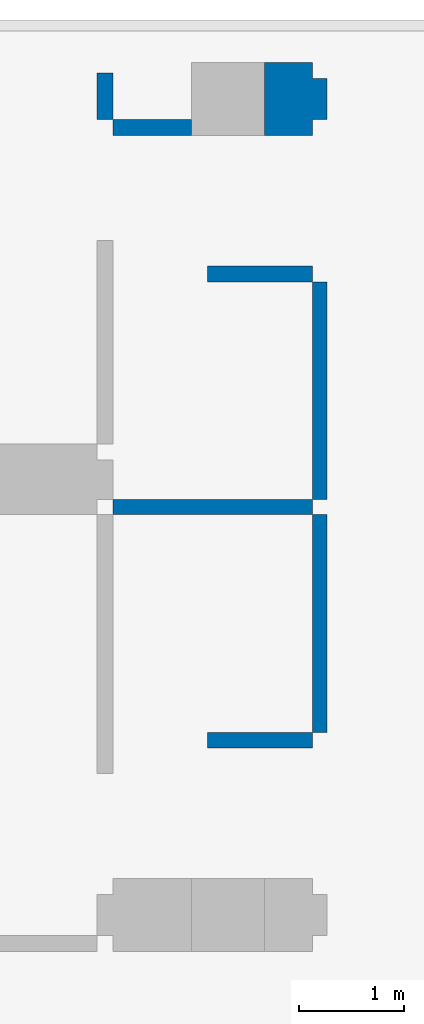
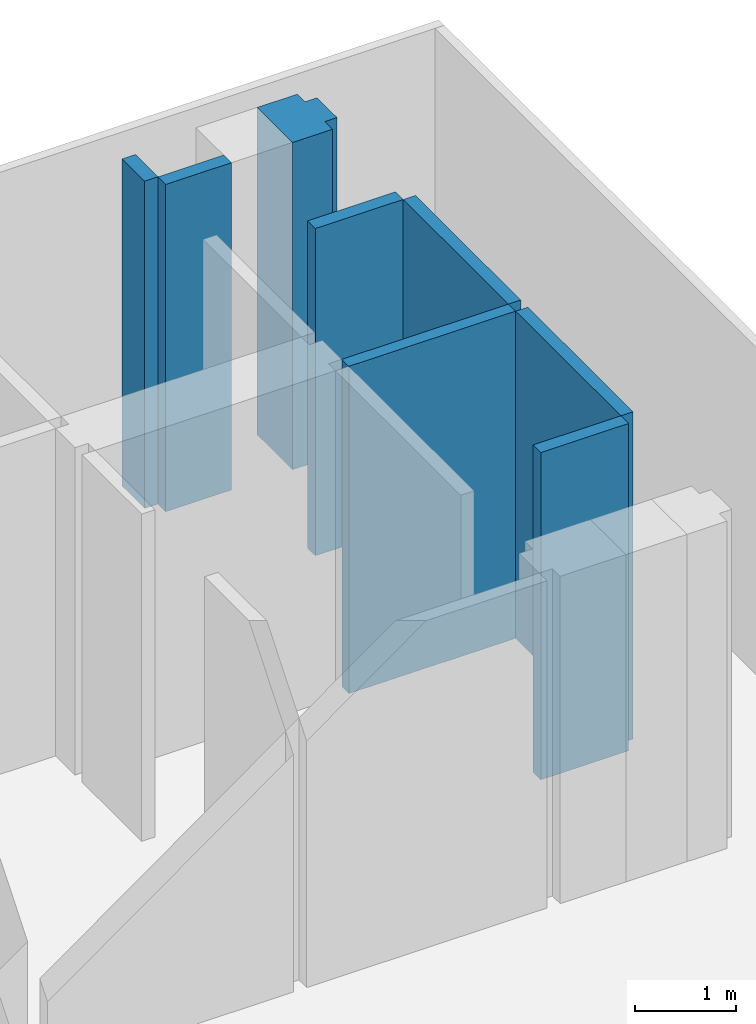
# One storey, part 3 of 4: 8 walls.
"""IFC4 building model written with IfcOpenShell, lengths in millimetres."""

import ifcopenshell
import ifcopenshell.guid

model = None  # the IFC model being written
_history = None  # IfcOwnerHistory: only IFC2X3 demands one
_inside = {}  # id of a spatial element -> (the spatial element, [elements in it])
_under = {}  # id of a project, library or spatial element -> (it, [spatial elements below it])
_declared = {}  # id of a project -> (the project, [libraries it declares])
_typed = {}  # id of a type object -> (the type object, [elements of that type])
_made_of = {}  # id of a material, layer set ... -> (it, [elements and type objects made of it])


def new_model(schema):
    """Start an empty IFC model of exactly this schema.

    Asked for "IFC4X3", IfcOpenShell would pick the latest addendum, in which some entities
    have other attributes; the version numbers below select the first issue.
    IFC2X3 requires an IfcOwnerHistory on every rooted entity: one is made here for all.
    """
    global model, _history
    if schema == "IFC4X3":
        model = ifcopenshell.file(schema_version=(4, 3, 0, 0))
    else:
        model = ifcopenshell.file(schema=schema)
    _inside.clear()
    _under.clear()
    _declared.clear()
    _typed.clear()
    _made_of.clear()
    _history = None
    if model.schema == "IFC2X3":
        org = make("IfcOrganization", Name="unknown")
        user = make(
            "IfcPersonAndOrganization",
            ThePerson=make("IfcPerson", FamilyName="unknown"),
            TheOrganization=org,
        )
        app = make(
            "IfcApplication",
            ApplicationDeveloper=org,
            Version="unknown",
            ApplicationFullName="unknown",
            ApplicationIdentifier="unknown",
        )
        _history = make(
            "IfcOwnerHistory",
            OwningUser=user,
            OwningApplication=app,
            ChangeAction="ADDED",
            CreationDate=0,
        )
    return model


def make(cls, **values):
    """One entity of the class cls with the attributes given. An attribute that is None is left unset."""
    return model.create_entity(
        cls, **{name: value for name, value in values.items() if value is not None}
    )


def rooted(cls, **values):
    """An entity with a GlobalId (a new one), such as an element, a storey or a relation."""
    return make(cls, GlobalId=ifcopenshell.guid.new(), OwnerHistory=_history, **values)


def si_unit(unit_type, name, prefix=None):
    """IfcSIUnit, for example si_unit("LENGTHUNIT", "METRE", prefix="MILLI")."""
    return make("IfcSIUnit", UnitType=unit_type, Prefix=prefix, Name=name)


def assignment(units):
    """IfcUnitAssignment: the units of a project."""
    return None if units is None else make("IfcUnitAssignment", Units=units)


def point(xyz):
    """IfcCartesianPoint."""
    return None if xyz is None else make("IfcCartesianPoint", Coordinates=xyz)


def direction(xyz):
    """IfcDirection."""
    return None if xyz is None else make("IfcDirection", DirectionRatios=xyz)


def frame(location, z_axis=None, x_axis=None):
    """IfcAxis2Placement3D, a coordinate frame: its origin and axes. An axis left out is left unset."""
    return make(
        "IfcAxis2Placement3D",
        Location=point(location),
        Axis=direction(z_axis),
        RefDirection=direction(x_axis),
    )


def origin():
    """The frame at (0, 0, 0) with its axes left unset."""
    return frame((0.0, 0.0, 0.0))


def place(relative_to, where):
    """IfcLocalPlacement: puts the frame where relative to a parent placement (None: the world)."""
    return make(
        "IfcLocalPlacement", PlacementRelTo=relative_to, RelativePlacement=where
    )


def context(
    kind, dimensions, precision=None, world=None, true_north=None, identifier=None
):
    """IfcGeometricRepresentationContext, for example the 3D "Model" context."""
    return make(
        "IfcGeometricRepresentationContext",
        ContextIdentifier=identifier,
        ContextType=kind,
        CoordinateSpaceDimension=dimensions,
        Precision=precision,
        WorldCoordinateSystem=world,
        TrueNorth=true_north,
    )


def project(units=None, contexts=None):
    """IfcProject with its units and contexts."""
    return rooted(
        "IfcProject",
        Name="project",
        RepresentationContexts=contexts,
        UnitsInContext=assignment(units),
    )


def spatial(cls, under=None, at=None, **own):
    """A site, building, storey or space (cls), placed at a placement, below another one or the project."""
    s = rooted(cls, ObjectPlacement=at, **own)
    if under is not None:
        _under.setdefault(under.id(), (under, []))[1].append(s)
    return s


def point_list(points):
    """IfcCartesianPointList2D or 3D."""
    cls = (
        "IfcCartesianPointList2D" if len(points[0]) == 2 else "IfcCartesianPointList3D"
    )
    return make(cls, CoordList=points)


def triangles(points, corners, closed=None, point_numbers=None):
    """IfcTriangulatedFaceSet: each triangle names its three corners, points numbered from 1."""
    return make(
        "IfcTriangulatedFaceSet",
        Coordinates=point_list(points),
        Closed=closed,
        CoordIndex=corners,
        PnIndex=point_numbers,
    )


def shape(context_of_items, identifier, shape_type, items):
    """IfcShapeRepresentation: the items that make up one representation, for example the "Body"."""
    return make(
        "IfcShapeRepresentation",
        ContextOfItems=context_of_items,
        RepresentationIdentifier=identifier,
        RepresentationType=shape_type,
        Items=items,
    )


def made_of(thing, what):
    """Note that an element or type object is made of a material, layer set ...; save() writes the relation."""
    if what is not None:
        _made_of.setdefault(what.id(), (what, []))[1].append(thing)
    return thing


def element(
    cls,
    number,
    at=None,
    inside=None,
    cuts=None,
    type_object=None,
    material=None,
    context=None,
    identifier="Body",
    shape_type=None,
    held_by="IfcProductDefinitionShape",
    body=None,
    shapes=None,
    **own,
):
    """One element of the class cls, such as IfcWall. Its Tag is "e" and its number.

    at: its placement. inside: the storey or other place that contains it. cuts: it is an
    opening in that element (IfcRelVoidsElement). A single representation is given by context,
    identifier, shape_type and body (its items); several are given by shapes. held_by: the class
    of the entity that holds the representations. save() writes the other relations.
    """
    e = rooted(cls, Tag="e%d" % number, ObjectPlacement=at, **own)
    if body is not None:
        shapes = [shape(context, identifier, shape_type, body)]
    if shapes is not None:
        e.Representation = make(held_by, Representations=shapes)
    if inside is not None:
        _inside.setdefault(inside.id(), (inside, []))[1].append(e)
    if cuts is not None:
        rooted(
            "IfcRelVoidsElement", RelatingBuildingElement=cuts, RelatedOpeningElement=e
        )
    if type_object is not None:
        _typed.setdefault(type_object.id(), (type_object, []))[1].append(e)
    return made_of(e, material)


def aggregate(whole, parts):
    """IfcRelAggregates: a whole, such as a stair, and the parts it consists of."""
    return rooted("IfcRelAggregates", RelatingObject=whole, RelatedObjects=parts)


def save(model, path):
    """Write the relations noted so far, then the file.

    IfcRelAggregates (storeys below a building ...), IfcRelContainedInSpatialStructure (elements
    in a storey), IfcRelDefinesByType, IfcRelAssociatesMaterial and IfcRelDeclares: one each for
    every whole, place, type object, material and project.
    """
    for whole, parts in _under.values():
        aggregate(whole, parts)
    for where, things in _inside.values():
        rooted(
            "IfcRelContainedInSpatialStructure",
            RelatedElements=things,
            RelatingStructure=where,
        )
    for kind, things in _typed.values():
        rooted("IfcRelDefinesByType", RelatedObjects=things, RelatingType=kind)
    for what, things in _made_of.values():
        rooted("IfcRelAssociatesMaterial", RelatedObjects=things, RelatingMaterial=what)
    for by, libraries in _declared.values():
        rooted("IfcRelDeclares", RelatingContext=by, RelatedDefinitions=libraries)
    model.write(path)


model = new_model("IFC4")

# Units and contexts
model_context = context("Model", 3, precision=0.001, world=origin())
ifc_project = project(units=[si_unit("LENGTHUNIT", "METRE", prefix="MILLI"), si_unit("AREAUNIT", "SQUARE_METRE"), si_unit("VOLUMEUNIT", "CUBIC_METRE")], contexts=[model_context])

# Site, building, storey
site_placement = place(None, origin())
site = spatial("IfcSite", under=ifc_project, at=site_placement, Name="Site", CompositionType="ELEMENT")
building_placement = place(site_placement, origin())
building = spatial("IfcBuilding", under=site, at=building_placement, Name="INNOCEAN", CompositionType="ELEMENT")
storey_placement = place(building_placement, frame((0.0, 0.0, 47000.0)))
storey = spatial("IfcBuildingStorey", under=building, at=storey_placement, Name="F11", CompositionType="ELEMENT", Elevation=47000.0)

# Walls
wall_1_placement = place(storey_placement, origin())
element("IfcWall", 1, at=wall_1_placement, inside=storey, Name="F11_Walls_F11_072", context=model_context, shape_type="Tessellation", body=[
    triangles([(48568.5, 18865.7, 0.0), (48568.5, 19018.1, 0.0), (48568.5, 19018.1, 3950.0), (48568.5, 18865.7, 3950.0), (47565.8, 18865.7, 0.0), (47565.8, 18865.7, 3950.0), (47565.8, 19018.1, 0.0), (47565.8, 19018.1, 3950.0)], [[1, 2, 3], [1, 3, 4], [5, 1, 4], [5, 4, 6], [7, 5, 6], [7, 6, 8], [2, 7, 8], [2, 8, 3], [7, 2, 1], [7, 1, 5], [3, 8, 4], [4, 8, 6]], closed=True),
])
wall_2_placement = place(storey_placement, origin())
element("IfcWall", 2, at=wall_2_placement, inside=storey, Name="F11_Walls_F11_074", context=model_context, shape_type="Tessellation", body=[
    triangles([(48708.1, 19018.1, 0.0), (48708.1, 21101.1, 0.0), (48708.1, 21101.1, 3950.0), (48708.1, 19018.1, 3950.0), (48568.5, 19018.1, 0.0), (48568.5, 19018.1, 3950.0), (48568.5, 21101.1, 0.0), (48568.5, 21101.1, 3950.0)], [[1, 2, 3], [1, 3, 4], [5, 1, 4], [5, 4, 6], [7, 5, 6], [7, 6, 8], [2, 7, 8], [2, 8, 3], [7, 2, 1], [7, 1, 5], [3, 8, 4], [4, 8, 6]], closed=True),
])
wall_3_placement = place(storey_placement, origin())
element("IfcWall", 3, at=wall_3_placement, inside=storey, Name="F11_Walls_F11_077", context=model_context, shape_type="Tessellation", body=[
    triangles([(48568.5, 21240.8, 0.0), (48568.5, 21240.8, 3950.0), (48568.5, 21101.1, 3950.0), (48568.5, 21101.1, 0.0), (46664.5, 21101.1, 3950.0), (46664.5, 21101.1, 0.0), (46664.5, 21240.8, 3950.0), (46664.5, 21240.8, 0.0)], [[1, 2, 3], [4, 1, 3], [4, 3, 5], [6, 4, 5], [6, 5, 7], [8, 6, 7], [8, 7, 2], [1, 8, 2], [8, 1, 4], [8, 4, 6], [2, 7, 3], [3, 7, 5]], closed=True),
])
wall_4_placement = place(storey_placement, origin())
element("IfcWall", 4, at=wall_4_placement, inside=storey, Name="F11_Walls_F11_078", context=model_context, shape_type="Tessellation", body=[
    triangles([(48708.1, 21240.8, 0.0), (48708.1, 23323.8, 0.0), (48708.1, 23323.8, 3950.0), (48708.1, 21240.8, 3950.0), (48568.5, 21240.8, 0.0), (48568.5, 21240.8, 3950.0), (48568.5, 23323.8, 0.0), (48568.5, 23323.8, 3950.0)], [[1, 2, 3], [1, 3, 4], [5, 1, 4], [5, 4, 6], [7, 5, 6], [7, 6, 8], [2, 7, 8], [2, 8, 3], [7, 2, 1], [7, 1, 5], [3, 8, 4], [4, 8, 6]], closed=True),
])
wall_5_placement = place(storey_placement, origin())
element("IfcWall", 5, at=wall_5_placement, inside=storey, Name="F11_Walls_F11_081", context=model_context, shape_type="Tessellation", body=[
    triangles([(48568.5, 23323.8, 0.0), (48568.5, 23476.2, 0.0), (48568.5, 23476.2, 3950.0), (48568.5, 23323.8, 3950.0), (47565.8, 23323.8, 0.0), (47565.8, 23323.8, 3950.0), (47565.8, 23476.2, 0.0), (47565.8, 23476.2, 3950.0)], [[1, 2, 3], [1, 3, 4], [5, 1, 4], [5, 4, 6], [7, 5, 6], [7, 6, 8], [2, 7, 8], [2, 8, 3], [7, 2, 1], [7, 1, 5], [3, 8, 4], [4, 8, 6]], closed=True),
])
wall_6_placement = place(storey_placement, origin())
element("IfcWall", 6, at=wall_6_placement, inside=storey, Name="F11_Walls_F11_082", context=model_context, shape_type="Tessellation", body=[
    triangles([(47413.4, 24721.0, 0.0), (47413.4, 24873.4, 0.0), (47413.4, 24873.4, 3950.0), (47413.4, 24721.0, 3950.0), (46664.5, 24721.0, 0.0), (46664.5, 24721.0, 3950.0), (46664.5, 24873.4, 0.0), (46664.5, 24873.4, 3950.0)], [[1, 2, 3], [1, 3, 4], [5, 1, 4], [5, 4, 6], [7, 5, 6], [7, 6, 8], [2, 7, 8], [2, 8, 3], [7, 2, 1], [7, 1, 5], [3, 8, 4], [4, 8, 6]], closed=True),
])
wall_7_placement = place(storey_placement, origin())
element("IfcWall", 7, at=wall_7_placement, inside=storey, Name="F11_Walls_F11_083", context=model_context, shape_type="Tessellation", body=[
    triangles([(48568.5, 25419.5, 0.0), (48111.6, 25419.5, 0.0), (48111.6, 25419.5, 3950.0), (48568.5, 25419.5, 3950.0), (48568.5, 25267.1, 0.0), (48568.5, 25267.1, 3950.0), (48708.1, 25267.1, 0.0), (48708.1, 25267.1, 3950.0), (48708.1, 24873.4, 3950.0), (48708.1, 24873.4, 0.0), (48568.5, 24873.4, 0.0), (48568.5, 24873.4, 3950.0), (48568.5, 24721.0, 0.0), (48568.5, 24721.0, 3950.0), (48111.6, 24721.0, 0.0), (48111.6, 24721.0, 3950.0), (48111.6, 24873.4, 0.0), (48111.6, 24873.4, 3950.0), (48111.6, 25267.1, 3950.0), (48111.6, 25267.1, 0.0)], [[1, 2, 3], [1, 3, 4], [5, 1, 4], [5, 4, 6], [7, 5, 6], [7, 6, 8], [7, 8, 9], [10, 7, 9], [11, 10, 9], [11, 9, 12], [13, 11, 12], [13, 12, 14], [15, 13, 14], [15, 14, 16], [17, 15, 16], [17, 16, 18], [17, 18, 19], [20, 17, 19], [2, 20, 19], [2, 19, 3], [7, 10, 11], [5, 7, 11], [17, 11, 13], [17, 13, 15], [20, 11, 17], [20, 5, 11], [2, 1, 5], [2, 5, 20], [9, 8, 12], [8, 6, 12], [12, 18, 14], [14, 18, 16], [12, 19, 18], [6, 19, 12], [4, 3, 6], [6, 3, 19]], closed=True),
])
wall_8_placement = place(storey_placement, origin())
element("IfcWall", 8, at=wall_8_placement, inside=storey, Name="F11_Walls_F11_084", context=model_context, shape_type="Tessellation", body=[
    triangles([(46512.2, 24873.4, 0.0), (46664.5, 24873.4, 0.0), (46664.5, 24873.4, 3950.0), (46512.2, 24873.4, 3950.0), (46512.2, 25317.9, 0.0), (46512.2, 25317.9, 3950.0), (46664.5, 25317.9, 0.0), (46664.5, 25317.9, 3950.0)], [[1, 2, 3], [1, 3, 4], [5, 1, 4], [5, 4, 6], [7, 5, 6], [7, 6, 8], [2, 7, 8], [2, 8, 3], [5, 2, 1], [5, 7, 2], [3, 6, 4], [8, 6, 3]], closed=True),
])

save(model, "model.ifc")
